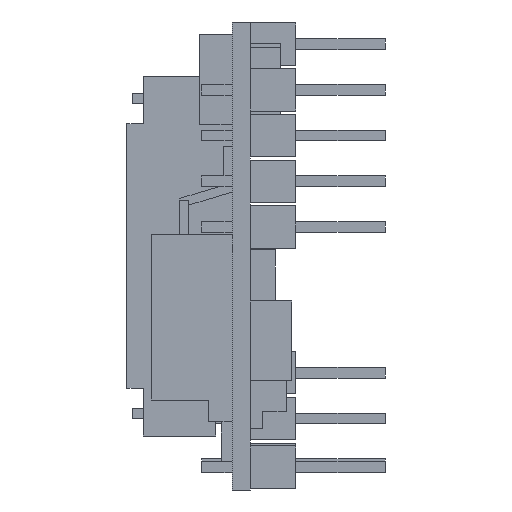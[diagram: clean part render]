
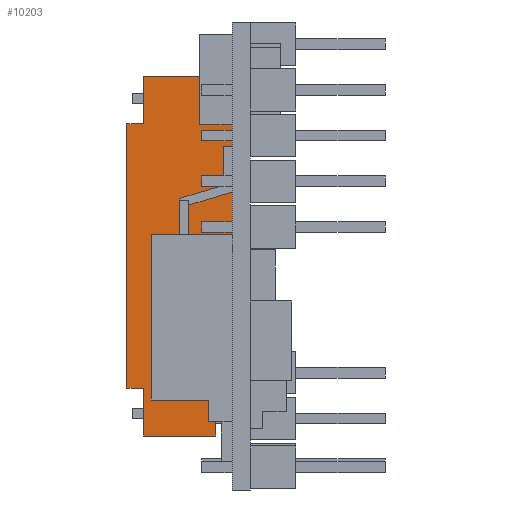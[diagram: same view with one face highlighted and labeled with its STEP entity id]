
A CAD part, left-side view. The second image highlights one B-rep face of the part: STEP entity #10203.
In plain terms, the highlighted planar face has unit normal (-1, 0, 0).
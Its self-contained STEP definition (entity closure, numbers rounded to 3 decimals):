
#15 = VECTOR ( 'NONE', #11570, 1000. ) ;
#16 = VECTOR ( 'NONE', #11550, 1000. ) ;
#22 = VECTOR ( 'NONE', #11544, 1000. ) ;
#89 = VECTOR ( 'NONE', #11597, 1000. ) ;
#102 = VECTOR ( 'NONE', #11588, 1000. ) ;
#130 = VECTOR ( 'NONE', #11582, 1000. ) ;
#135 = VECTOR ( 'NONE', #11592, 1000. ) ;
#140 = VECTOR ( 'NONE', #11573, 1000. ) ;
#495 = VERTEX_POINT ( 'NONE', #1139 ) ;
#496 = VERTEX_POINT ( 'NONE', #1140 ) ;
#538 = VERTEX_POINT ( 'NONE', #1182 ) ;
#542 = VERTEX_POINT ( 'NONE', #1186 ) ;
#550 = VERTEX_POINT ( 'NONE', #1194 ) ;
#563 = VERTEX_POINT ( 'NONE', #1207 ) ;
#570 = VERTEX_POINT ( 'NONE', #1214 ) ;
#580 = VERTEX_POINT ( 'NONE', #1224 ) ;
#581 = VERTEX_POINT ( 'NONE', #1225 ) ;
#583 = VERTEX_POINT ( 'NONE', #1227 ) ;
#593 = VERTEX_POINT ( 'NONE', #1237 ) ;
#1139 = CARTESIAN_POINT ( 'NONE',  ( -4.4, 5.925, 10. ) ) ;
#1140 = CARTESIAN_POINT ( 'NONE',  ( -4.4, 5.925, 7.35 ) ) ;
#1182 = CARTESIAN_POINT ( 'NONE',  ( -4.4, 5.925, -7.35 ) ) ;
#1186 = CARTESIAN_POINT ( 'NONE',  ( -4.4, 1.925, 10. ) ) ;
#1194 = CARTESIAN_POINT ( 'NONE',  ( -4.4, 5.925, -10. ) ) ;
#1207 = CARTESIAN_POINT ( 'NONE',  ( -4.4, 1.925, 7.35 ) ) ;
#1214 = CARTESIAN_POINT ( 'NONE',  ( -4.4, 1.925, -10. ) ) ;
#1224 = CARTESIAN_POINT ( 'NONE',  ( -4.4, 1., -7.35 ) ) ;
#1225 = CARTESIAN_POINT ( 'NONE',  ( -4.4, 1., 7.35 ) ) ;
#1227 = CARTESIAN_POINT ( 'NONE',  ( -4.4, 6.85, 7.35 ) ) ;
#1237 = CARTESIAN_POINT ( 'NONE',  ( -4.4, 6.85, -7.35 ) ) ;
#1316 = VECTOR ( 'NONE', #1594, 1000. ) ;
#1591 = LINE ( 'NONE', #1592, #1316 ) ;
#1592 = CARTESIAN_POINT ( 'NONE',  ( -4.4, 5.925, 10. ) ) ;
#1594 = DIRECTION ( 'NONE',  ( 0., 0., 1. ) ) ;
#1639 = LINE ( 'NONE', #1640, #11082 ) ;
#1640 = CARTESIAN_POINT ( 'NONE',  ( -4.4, 1.925, 10. ) ) ;
#1641 = DIRECTION ( 'NONE',  ( 0., 0., 1. ) ) ;
#1810 = LINE ( 'NONE', #1811, #11083 ) ;
#1811 = CARTESIAN_POINT ( 'NONE',  ( -4.4, 5.925, 10. ) ) ;
#1812 = DIRECTION ( 'NONE',  ( 0., 0., 1. ) ) ;
#2403 = CARTESIAN_POINT ( 'NONE',  ( -4.4, 6.85, 7.35 ) ) ;
#2411 = FACE_OUTER_BOUND ( 'NONE', #10834, .T. ) ;
#2412 = PLANE ( 'NONE',  #8137 ) ;
#2414 = DIRECTION ( 'NONE',  ( 1., 0., 0. ) ) ;
#2415 = DIRECTION ( 'NONE',  ( 0., 0., -1. ) ) ;
#2606 = EDGE_CURVE ( 'NONE', #495, #542, #11541, .T. ) ;
#2608 = EDGE_CURVE ( 'NONE', #11202, #580, #11531, .T. ) ;
#2615 = EDGE_CURVE ( 'NONE', #563, #581, #11557, .T. ) ;
#2616 = EDGE_CURVE ( 'NONE', #550, #570, #11571, .T. ) ;
#2619 = EDGE_CURVE ( 'NONE', #593, #583, #11561, .T. ) ;
#2621 = EDGE_CURVE ( 'NONE', #593, #538, #11586, .T. ) ;
#2622 = EDGE_CURVE ( 'NONE', #583, #496, #11589, .T. ) ;
#2624 = EDGE_CURVE ( 'NONE', #580, #581, #11595, .T. ) ;
#2838 = CARTESIAN_POINT ( 'NONE',  ( -4.4, 1.925, -7.35 ) ) ;
#4851 = EDGE_CURVE ( 'NONE', #550, #538, #1591, .T. ) ;
#4867 = EDGE_CURVE ( 'NONE', #563, #542, #1639, .T. ) ;
#4924 = EDGE_CURVE ( 'NONE', #496, #495, #1810, .T. ) ;
#8137 = AXIS2_PLACEMENT_3D ( 'NONE', #2403, #2414, #2415 ) ;
#9311 = LINE ( 'NONE', #9312, #10693 ) ;
#9312 = CARTESIAN_POINT ( 'NONE',  ( -4.4, 1.925, 10. ) ) ;
#9313 = DIRECTION ( 'NONE',  ( 0., 0., 1. ) ) ;
#10203 = ADVANCED_FACE ( 'NONE', ( #2411 ), #2412, .F. ) ;
#10693 = VECTOR ( 'NONE', #9313, 1000. ) ;
#10834 = EDGE_LOOP ( 'NONE', ( #12928, #12930, #12926, #12934, #12927, #12806, #12805, #12933, #12931, #12804, #12803, #12932 ) ) ;
#11082 = VECTOR ( 'NONE', #1641, 1000. ) ;
#11083 = VECTOR ( 'NONE', #1812, 1000. ) ;
#11202 = VERTEX_POINT ( 'NONE', #2838 ) ;
#11531 = LINE ( 'NONE', #11548, #16 ) ;
#11541 = LINE ( 'NONE', #11543, #22 ) ;
#11543 = CARTESIAN_POINT ( 'NONE',  ( -4.4, 5.925, 10. ) ) ;
#11544 = DIRECTION ( 'NONE',  ( 0., -1., 0. ) ) ;
#11548 = CARTESIAN_POINT ( 'NONE',  ( -4.4, 6.85, -7.35 ) ) ;
#11550 = DIRECTION ( 'NONE',  ( 0., -1., 0. ) ) ;
#11557 = LINE ( 'NONE', #11569, #15 ) ;
#11561 = LINE ( 'NONE', #11581, #130 ) ;
#11569 = CARTESIAN_POINT ( 'NONE',  ( -4.4, 6.85, 7.35 ) ) ;
#11570 = DIRECTION ( 'NONE',  ( 0., -1., 0. ) ) ;
#11571 = LINE ( 'NONE', #11572, #140 ) ;
#11572 = CARTESIAN_POINT ( 'NONE',  ( -4.4, 5.925, -10. ) ) ;
#11573 = DIRECTION ( 'NONE',  ( 0., -1., 0. ) ) ;
#11581 = CARTESIAN_POINT ( 'NONE',  ( -4.4, 6.85, 7.35 ) ) ;
#11582 = DIRECTION ( 'NONE',  ( 0., 0., 1. ) ) ;
#11586 = LINE ( 'NONE', #11587, #102 ) ;
#11587 = CARTESIAN_POINT ( 'NONE',  ( -4.4, 6.85, -7.35 ) ) ;
#11588 = DIRECTION ( 'NONE',  ( 0., -1., 0. ) ) ;
#11589 = LINE ( 'NONE', #11591, #135 ) ;
#11591 = CARTESIAN_POINT ( 'NONE',  ( -4.4, 6.85, 7.35 ) ) ;
#11592 = DIRECTION ( 'NONE',  ( 0., -1., 0. ) ) ;
#11595 = LINE ( 'NONE', #11596, #89 ) ;
#11596 = CARTESIAN_POINT ( 'NONE',  ( -4.4, 1., 7.35 ) ) ;
#11597 = DIRECTION ( 'NONE',  ( 0., 0., 1. ) ) ;
#12412 = EDGE_CURVE ( 'NONE', #570, #11202, #9311, .T. ) ;
#12803 = ORIENTED_EDGE ( 'NONE', *, *, #2608, .T. ) ;
#12804 = ORIENTED_EDGE ( 'NONE', *, *, #12412, .T. ) ;
#12805 = ORIENTED_EDGE ( 'NONE', *, *, #2621, .T. ) ;
#12806 = ORIENTED_EDGE ( 'NONE', *, *, #2619, .F. ) ;
#12926 = ORIENTED_EDGE ( 'NONE', *, *, #2606, .F. ) ;
#12927 = ORIENTED_EDGE ( 'NONE', *, *, #2622, .F. ) ;
#12928 = ORIENTED_EDGE ( 'NONE', *, *, #2615, .F. ) ;
#12930 = ORIENTED_EDGE ( 'NONE', *, *, #4867, .T. ) ;
#12931 = ORIENTED_EDGE ( 'NONE', *, *, #2616, .T. ) ;
#12932 = ORIENTED_EDGE ( 'NONE', *, *, #2624, .T. ) ;
#12933 = ORIENTED_EDGE ( 'NONE', *, *, #4851, .F. ) ;
#12934 = ORIENTED_EDGE ( 'NONE', *, *, #4924, .F. ) ;
